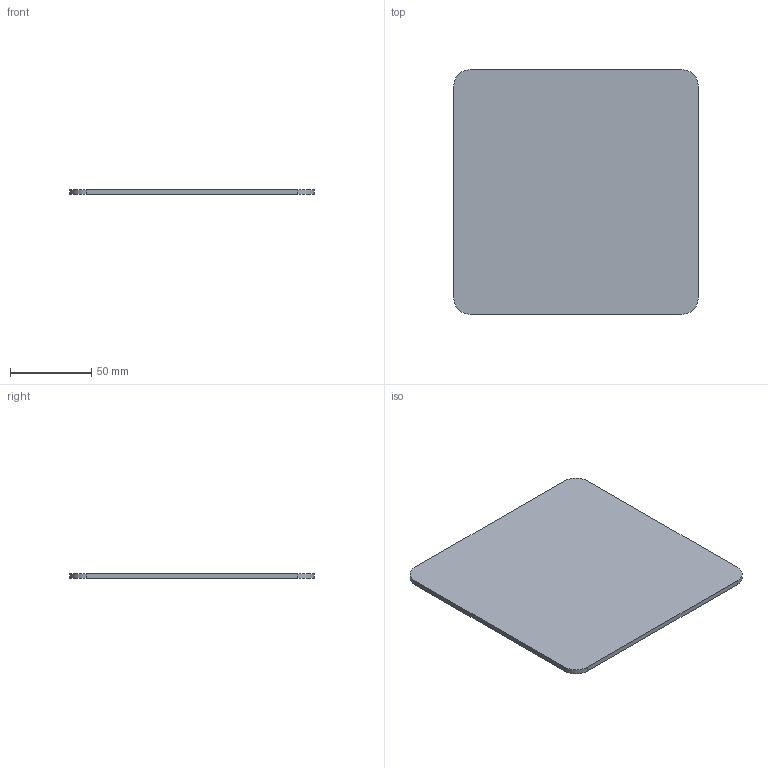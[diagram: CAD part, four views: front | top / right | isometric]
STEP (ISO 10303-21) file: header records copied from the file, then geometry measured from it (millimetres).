
FILE_DESCRIPTION(('STEP AP214'), '1');
FILE_NAME('Ïëàñòèíà îñíîâàíèÿ', '', ('UNSPECIFIED'), ('UNSPECIFIED'), 'C3D Converter', 'C3D Toolkit', '');
FILE_SCHEMA(('AUTOMOTIVE_DESIGN { 1 0 10303 214 3 1 1}'));
Length unit declared in the file: millimetre
Products named in the file (1): АКСЛ.298.101
Bounding box: 150 x 150 x 3 mm (x, y, z)
Volume: 67242.5 mm3; surface area: 46576.8 mm2
Topology: 1 solids, 1 shells, 10 faces, 24 edges, 16 vertices
Faces by surface type: plane 6, cylinder 4
Entity records: 331 total; most frequent: DIRECTION 54, CARTESIAN_POINT 51, ORIENTED_EDGE 48, EDGE_CURVE 24, AXIS2_PLACEMENT_3D 19, VERTEX_POINT 16, LINE 16, VECTOR 16
